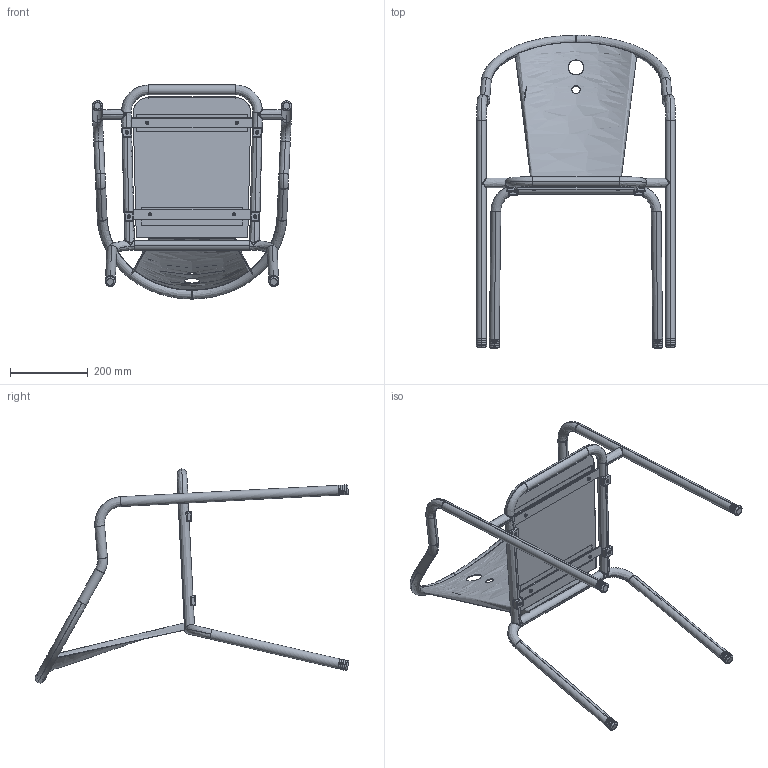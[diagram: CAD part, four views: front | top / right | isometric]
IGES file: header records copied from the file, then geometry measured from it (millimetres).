
Start section: SolidWorks IGES file using analytic representation for surfaces
Global section: file name: E:\ADICO-PC1-ANDRE\ADICO_ANDRE\ADICO_2011\HOTELARIA\OUTDOOR\07_11\libelo\chapa\c_furo\para envio EMAIL\3D\libelo chapa_3D.IGS; native system: SolidWorks 2017; preprocessor: SolidWorks 2017; author: andre; date: 170613.175410; units: millimetre
Bounding box: 511 x 804.96 x 549.6 mm (x, y, z)
Surface area: 1287441.9 mm2 (no closed solid volume)
Topology: 0 solids, 0 shells, 841 faces, 11277 edges, 11261 vertices
Faces by surface type: bspline 496, revolution 345
